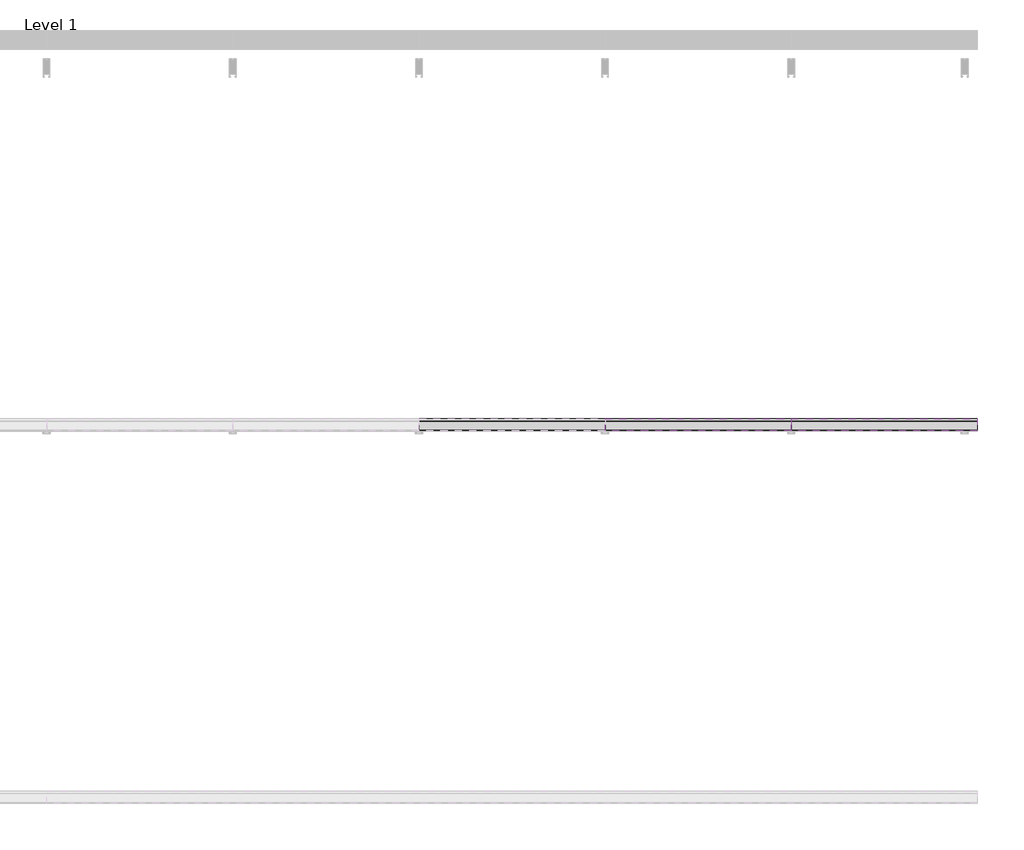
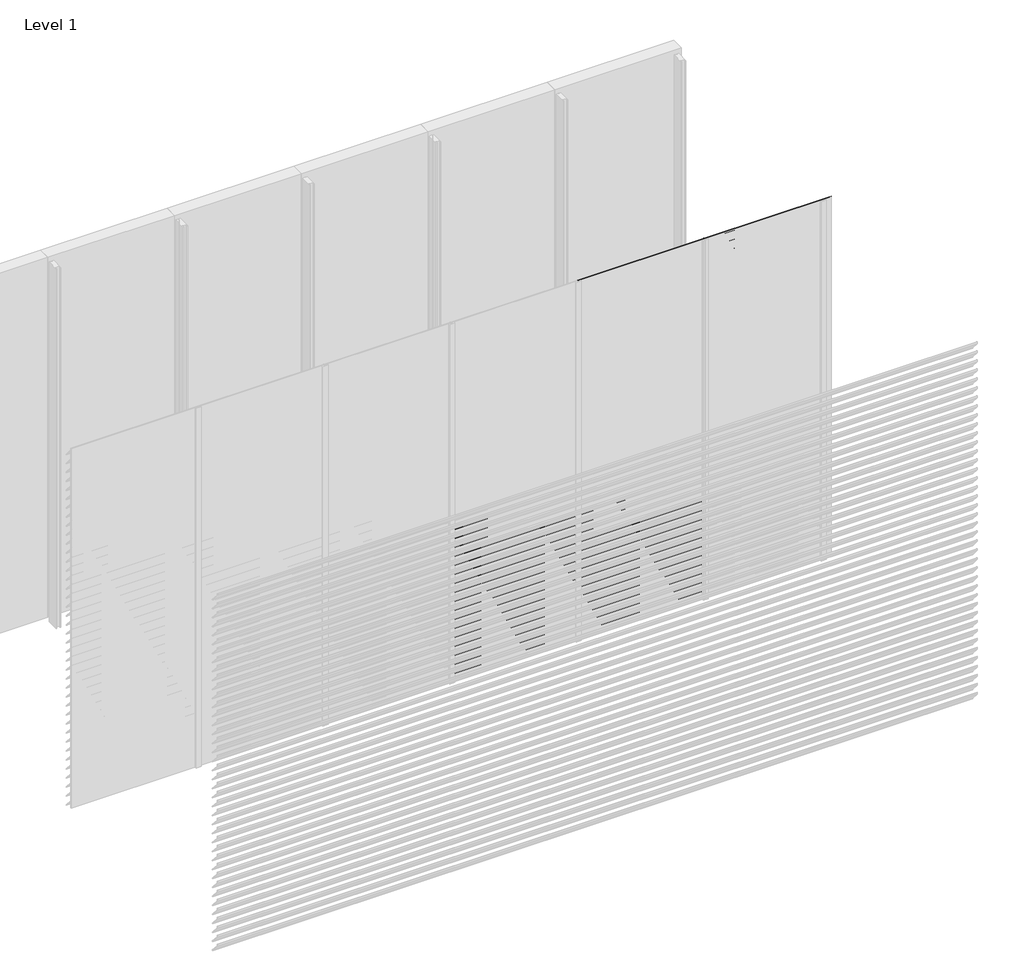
# One storey, part 22 of 35: 86 proxies.
"""IFC4 building model written with IfcOpenShell, lengths in millimetres."""

from ifc_helpers import new_model, si_unit, frame, origin, place, context, project, spatial, polyline, outline, extrude, element, save

model = new_model("IFC4")

# Units and contexts
model_context = context("Model", 3, world=origin())
ifc_project = project(units=[si_unit("LENGTHUNIT", "METRE", prefix="MILLI")], contexts=[model_context])

# Site, building, storey
site = spatial("IfcSite", under=ifc_project)
building = spatial("IfcBuilding", under=site)
storey = spatial("IfcBuildingStorey", under=building, Name="Level 1", Elevation=0.0)

# Proxies
placement = place(None, origin())
element("IfcBuildingElementProxy", 1, Name="Wall Sweeps", at=placement, inside=storey, context=model_context, shape_type="SweptSolid", body=[
    extrude(outline(polyline([(-23996.5, 1275.0), (-23996.5, 1260.5463701), (-23934.5, 1188.9330051), (-23934.5, 1185.4), (-23936.0, 1185.4), (-23936.0, 1188.3738975), (-23998.0, 1259.9872626), (-23998.0, 1275.0), (-23996.5, 1275.0)])), frame((3000.0, 0.0, 0.0), z_axis=(1.0, 0.0, 0.0), x_axis=(0.0, 1.0, 0.0)), (0.0, 0.0, 1.0), 1000.0),
])
element("IfcBuildingElementProxy", 2, Name="Wall Sweeps", at=placement, inside=storey, context=model_context, shape_type="SweptSolid", body=[
    extrude(outline(polyline([(-23996.5, 1200.0), (-23996.5, 1185.5463701), (-23934.5, 1113.9330051), (-23934.5, 1110.4), (-23936.0, 1110.4), (-23936.0, 1113.3738975), (-23998.0, 1184.9872626), (-23998.0, 1200.0), (-23996.5, 1200.0)])), frame((3000.0, 0.0, 0.0), z_axis=(1.0, 0.0, 0.0), x_axis=(0.0, 1.0, 0.0)), (0.0, 0.0, 1.0), 1000.0),
])
element("IfcBuildingElementProxy", 3, Name="Wall Sweeps", at=placement, inside=storey, context=model_context, shape_type="SweptSolid", body=[
    extrude(outline(polyline([(-23996.5, 1125.0), (-23996.5, 1110.5463701), (-23934.5, 1038.9330051), (-23934.5, 1035.4), (-23936.0, 1035.4), (-23936.0, 1038.3738975), (-23998.0, 1109.9872626), (-23998.0, 1125.0), (-23996.5, 1125.0)])), frame((3000.0, 0.0, 0.0), z_axis=(1.0, 0.0, 0.0), x_axis=(0.0, 1.0, 0.0)), (0.0, 0.0, 1.0), 1000.0),
])
element("IfcBuildingElementProxy", 4, Name="Wall Sweeps", at=placement, inside=storey, context=model_context, shape_type="SweptSolid", body=[
    extrude(outline(polyline([(-23996.5, 1050.0), (-23996.5, 1035.5463701), (-23934.5, 963.9330051), (-23934.5, 960.4), (-23936.0, 960.4), (-23936.0, 963.3738975), (-23998.0, 1034.9872626), (-23998.0, 1050.0), (-23996.5, 1050.0)])), frame((3000.0, 0.0, 0.0), z_axis=(1.0, 0.0, 0.0), x_axis=(0.0, 1.0, 0.0)), (0.0, 0.0, 1.0), 1000.0),
])
element("IfcBuildingElementProxy", 5, Name="Wall Sweeps", at=placement, inside=storey, context=model_context, shape_type="SweptSolid", body=[
    extrude(outline(polyline([(-23996.5, 975.0), (-23996.5, 960.5463701), (-23934.5, 888.9330051), (-23934.5, 885.4), (-23936.0, 885.4), (-23936.0, 888.3738975), (-23998.0, 959.9872626), (-23998.0, 975.0), (-23996.5, 975.0)])), frame((3000.0, 0.0, 0.0), z_axis=(1.0, 0.0, 0.0), x_axis=(0.0, 1.0, 0.0)), (0.0, 0.0, 1.0), 1000.0),
])
element("IfcBuildingElementProxy", 6, Name="Wall Sweeps", at=placement, inside=storey, context=model_context, shape_type="SweptSolid", body=[
    extrude(outline(polyline([(-23996.5, 900.0), (-23996.5, 885.5463701), (-23934.5, 813.9330051), (-23934.5, 810.4), (-23936.0, 810.4), (-23936.0, 813.3738975), (-23998.0, 884.9872626), (-23998.0, 900.0), (-23996.5, 900.0)])), frame((3000.0, 0.0, 0.0), z_axis=(1.0, 0.0, 0.0), x_axis=(0.0, 1.0, 0.0)), (0.0, 0.0, 1.0), 1000.0),
])
element("IfcBuildingElementProxy", 7, Name="Wall Sweeps", at=placement, inside=storey, context=model_context, shape_type="SweptSolid", body=[
    extrude(outline(polyline([(-23996.5, 825.0), (-23996.5, 810.5463701), (-23934.5, 738.9330051), (-23934.5, 735.4), (-23936.0, 735.4), (-23936.0, 738.3738975), (-23998.0, 809.9872626), (-23998.0, 825.0), (-23996.5, 825.0)])), frame((3000.0, 0.0, 0.0), z_axis=(1.0, 0.0, 0.0), x_axis=(0.0, 1.0, 0.0)), (0.0, 0.0, 1.0), 1000.0),
])
element("IfcBuildingElementProxy", 8, Name="Wall Sweeps", at=placement, inside=storey, context=model_context, shape_type="SweptSolid", body=[
    extrude(outline(polyline([(-23996.5, 750.0), (-23996.5, 735.5463701), (-23934.5, 663.9330051), (-23934.5, 660.4), (-23936.0, 660.4), (-23936.0, 663.3738975), (-23998.0, 734.9872626), (-23998.0, 750.0), (-23996.5, 750.0)])), frame((3000.0, 0.0, 0.0), z_axis=(1.0, 0.0, 0.0), x_axis=(0.0, 1.0, 0.0)), (0.0, 0.0, 1.0), 1000.0),
])
element("IfcBuildingElementProxy", 9, Name="Wall Sweeps", at=placement, inside=storey, context=model_context, shape_type="SweptSolid", body=[
    extrude(outline(polyline([(-23996.5, 675.0), (-23996.5, 660.5463701), (-23934.5, 588.9330051), (-23934.5, 585.4), (-23936.0, 585.4), (-23936.0, 588.3738975), (-23998.0, 659.9872626), (-23998.0, 675.0), (-23996.5, 675.0)])), frame((3000.0, 0.0, 0.0), z_axis=(1.0, 0.0, 0.0), x_axis=(0.0, 1.0, 0.0)), (0.0, 0.0, 1.0), 1000.0),
])
element("IfcBuildingElementProxy", 10, Name="Wall Sweeps", at=placement, inside=storey, context=model_context, shape_type="SweptSolid", body=[
    extrude(outline(polyline([(-23996.5, 600.0), (-23996.5, 585.5463701), (-23934.5, 513.9330051), (-23934.5, 510.4), (-23936.0, 510.4), (-23936.0, 513.3738975), (-23998.0, 584.9872626), (-23998.0, 600.0), (-23996.5, 600.0)])), frame((3000.0, 0.0, 0.0), z_axis=(1.0, 0.0, 0.0), x_axis=(0.0, 1.0, 0.0)), (0.0, 0.0, 1.0), 1000.0),
])
element("IfcBuildingElementProxy", 11, Name="Wall Sweeps", at=placement, inside=storey, context=model_context, shape_type="SweptSolid", body=[
    extrude(outline(polyline([(-23996.5, 525.0), (-23996.5, 510.5463701), (-23934.5, 438.9330051), (-23934.5, 435.4), (-23936.0, 435.4), (-23936.0, 438.3738975), (-23998.0, 509.9872626), (-23998.0, 525.0), (-23996.5, 525.0)])), frame((3000.0, 0.0, 0.0), z_axis=(1.0, 0.0, 0.0), x_axis=(0.0, 1.0, 0.0)), (0.0, 0.0, 1.0), 1000.0),
])
element("IfcBuildingElementProxy", 12, Name="Wall Sweeps", at=placement, inside=storey, context=model_context, shape_type="SweptSolid", body=[
    extrude(outline(polyline([(-23996.5, 450.0), (-23996.5, 435.5463701), (-23934.5, 363.9330051), (-23934.5, 360.4), (-23936.0, 360.4), (-23936.0, 363.3738975), (-23998.0, 434.9872626), (-23998.0, 450.0), (-23996.5, 450.0)])), frame((3000.0, 0.0, 0.0), z_axis=(1.0, 0.0, 0.0), x_axis=(0.0, 1.0, 0.0)), (0.0, 0.0, 1.0), 1000.0),
])
element("IfcBuildingElementProxy", 13, Name="Wall Sweeps", at=placement, inside=storey, context=model_context, shape_type="SweptSolid", body=[
    extrude(outline(polyline([(-23996.5, 375.0), (-23996.5, 360.5463701), (-23934.5, 288.9330051), (-23934.5, 285.4), (-23936.0, 285.4), (-23936.0, 288.3738975), (-23998.0, 359.9872626), (-23998.0, 375.0), (-23996.5, 375.0)])), frame((3000.0, 0.0, 0.0), z_axis=(1.0, 0.0, 0.0), x_axis=(0.0, 1.0, 0.0)), (0.0, 0.0, 1.0), 1000.0),
])
element("IfcBuildingElementProxy", 14, Name="Wall Sweeps", at=placement, inside=storey, context=model_context, shape_type="SweptSolid", body=[
    extrude(outline(polyline([(-23996.5, 300.0), (-23996.5, 285.5463701), (-23934.5, 213.9330051), (-23934.5, 210.4), (-23936.0, 210.4), (-23936.0, 213.3738975), (-23998.0, 284.9872626), (-23998.0, 300.0), (-23996.5, 300.0)])), frame((3000.0, 0.0, 0.0), z_axis=(1.0, 0.0, 0.0), x_axis=(0.0, 1.0, 0.0)), (0.0, 0.0, 1.0), 1000.0),
])
element("IfcBuildingElementProxy", 15, Name="Wall Sweeps", at=placement, inside=storey, context=model_context, shape_type="SweptSolid", body=[
    extrude(outline(polyline([(-23996.5, 225.0), (-23996.5, 210.5463701), (-23934.5, 138.9330051), (-23934.5, 135.4), (-23936.0, 135.4), (-23936.0, 138.3738975), (-23998.0, 209.9872626), (-23998.0, 225.0), (-23996.5, 225.0)])), frame((3000.0, 0.0, 0.0), z_axis=(1.0, 0.0, 0.0), x_axis=(0.0, 1.0, 0.0)), (0.0, 0.0, 1.0), 1000.0),
])
element("IfcBuildingElementProxy", 16, Name="Wall Sweeps", at=placement, inside=storey, context=model_context, shape_type="SweptSolid", body=[
    extrude(outline(polyline([(-23996.5, 150.0), (-23996.5, 135.5463701), (-23934.5, 63.9330051), (-23934.5, 60.4), (-23936.0, 60.4), (-23936.0, 63.3738975), (-23998.0, 134.9872626), (-23998.0, 150.0), (-23996.5, 150.0)])), frame((3000.0, 0.0, 0.0), z_axis=(1.0, 0.0, 0.0), x_axis=(0.0, 1.0, 0.0)), (0.0, 0.0, 1.0), 1000.0),
])
element("IfcBuildingElementProxy", 17, Name="Wall Sweeps", at=placement, inside=storey, context=model_context, shape_type="SweptSolid", body=[
    extrude(outline(polyline([(-23996.5, 75.0), (-23996.5, 60.5463701), (-23934.5, -11.0669949), (-23934.5, -14.6), (-23936.0, -14.6), (-23936.0, -11.6261025), (-23998.0, 59.9872626), (-23998.0, 75.0), (-23996.5, 75.0)])), frame((3000.0, 0.0, 0.0), z_axis=(1.0, 0.0, 0.0), x_axis=(0.0, 1.0, 0.0)), (0.0, 0.0, 1.0), 1000.0),
])
element("IfcBuildingElementProxy", 18, Name="Wall Sweeps", at=placement, inside=storey, context=model_context, shape_type="SweptSolid", body=[
    extrude(outline(polyline([(-23996.5, 3000.0), (-23996.5, 2985.5463701), (-23934.5, 2913.9330051), (-23934.5, 2910.4), (-23936.0, 2910.4), (-23936.0, 2913.3738975), (-23998.0, 2984.9872626), (-23998.0, 3000.0), (-23996.5, 3000.0)])), frame((4000.0, 0.0, 0.0), z_axis=(1.0, 0.0, 0.0), x_axis=(0.0, 1.0, 0.0)), (0.0, 0.0, 1.0), 1000.0),
])
element("IfcBuildingElementProxy", 19, Name="Wall Sweeps", at=placement, inside=storey, context=model_context, shape_type="SweptSolid", body=[
    extrude(outline(polyline([(-23996.5, 2925.0), (-23996.5, 2910.5463701), (-23934.5, 2838.9330051), (-23934.5, 2835.4), (-23936.0, 2835.4), (-23936.0, 2838.3738975), (-23998.0, 2909.9872626), (-23998.0, 2925.0), (-23996.5, 2925.0)])), frame((4000.0, 0.0, 0.0), z_axis=(1.0, 0.0, 0.0), x_axis=(0.0, 1.0, 0.0)), (0.0, 0.0, 1.0), 1000.0),
])
element("IfcBuildingElementProxy", 20, Name="Wall Sweeps", at=placement, inside=storey, context=model_context, shape_type="SweptSolid", body=[
    extrude(outline(polyline([(-23996.5, 2850.0), (-23996.5, 2835.5463701), (-23934.5, 2763.9330051), (-23934.5, 2760.4), (-23936.0, 2760.4), (-23936.0, 2763.3738975), (-23998.0, 2834.9872626), (-23998.0, 2850.0), (-23996.5, 2850.0)])), frame((4000.0, 0.0, 0.0), z_axis=(1.0, 0.0, 0.0), x_axis=(0.0, 1.0, 0.0)), (0.0, 0.0, 1.0), 1000.0),
])
element("IfcBuildingElementProxy", 21, Name="Wall Sweeps", at=placement, inside=storey, context=model_context, shape_type="SweptSolid", body=[
    extrude(outline(polyline([(-23996.5, 2775.0), (-23996.5, 2760.5463701), (-23934.5, 2688.9330051), (-23934.5, 2685.4), (-23936.0, 2685.4), (-23936.0, 2688.3738975), (-23998.0, 2759.9872626), (-23998.0, 2775.0), (-23996.5, 2775.0)])), frame((4000.0, 0.0, 0.0), z_axis=(1.0, 0.0, 0.0), x_axis=(0.0, 1.0, 0.0)), (0.0, 0.0, 1.0), 1000.0),
])
element("IfcBuildingElementProxy", 22, Name="Wall Sweeps", at=placement, inside=storey, context=model_context, shape_type="SweptSolid", body=[
    extrude(outline(polyline([(-23996.5, 2700.0), (-23996.5, 2685.5463701), (-23934.5, 2613.9330051), (-23934.5, 2610.4), (-23936.0, 2610.4), (-23936.0, 2613.3738975), (-23998.0, 2684.9872626), (-23998.0, 2700.0), (-23996.5, 2700.0)])), frame((4000.0, 0.0, 0.0), z_axis=(1.0, 0.0, 0.0), x_axis=(0.0, 1.0, 0.0)), (0.0, 0.0, 1.0), 1000.0),
])
element("IfcBuildingElementProxy", 23, Name="Wall Sweeps", at=placement, inside=storey, context=model_context, shape_type="SweptSolid", body=[
    extrude(outline(polyline([(-23996.5, 2625.0), (-23996.5, 2610.5463701), (-23934.5, 2538.9330051), (-23934.5, 2535.4), (-23936.0, 2535.4), (-23936.0, 2538.3738975), (-23998.0, 2609.9872626), (-23998.0, 2625.0), (-23996.5, 2625.0)])), frame((4000.0, 0.0, 0.0), z_axis=(1.0, 0.0, 0.0), x_axis=(0.0, 1.0, 0.0)), (0.0, 0.0, 1.0), 1000.0),
])
element("IfcBuildingElementProxy", 24, Name="Wall Sweeps", at=placement, inside=storey, context=model_context, shape_type="SweptSolid", body=[
    extrude(outline(polyline([(-23996.5, 2550.0), (-23996.5, 2535.5463701), (-23934.5, 2463.9330051), (-23934.5, 2460.4), (-23936.0, 2460.4), (-23936.0, 2463.3738975), (-23998.0, 2534.9872626), (-23998.0, 2550.0), (-23996.5, 2550.0)])), frame((4000.0, 0.0, 0.0), z_axis=(1.0, 0.0, 0.0), x_axis=(0.0, 1.0, 0.0)), (0.0, 0.0, 1.0), 1000.0),
])
element("IfcBuildingElementProxy", 25, Name="Wall Sweeps", at=placement, inside=storey, context=model_context, shape_type="SweptSolid", body=[
    extrude(outline(polyline([(-23996.5, 2475.0), (-23996.5, 2460.5463701), (-23934.5, 2388.9330051), (-23934.5, 2385.4), (-23936.0, 2385.4), (-23936.0, 2388.3738975), (-23998.0, 2459.9872626), (-23998.0, 2475.0), (-23996.5, 2475.0)])), frame((4000.0, 0.0, 0.0), z_axis=(1.0, 0.0, 0.0), x_axis=(0.0, 1.0, 0.0)), (0.0, 0.0, 1.0), 1000.0),
])
element("IfcBuildingElementProxy", 26, Name="Wall Sweeps", at=placement, inside=storey, context=model_context, shape_type="SweptSolid", body=[
    extrude(outline(polyline([(-23996.5, 2400.0), (-23996.5, 2385.5463701), (-23934.5, 2313.9330051), (-23934.5, 2310.4), (-23936.0, 2310.4), (-23936.0, 2313.3738975), (-23998.0, 2384.9872626), (-23998.0, 2400.0), (-23996.5, 2400.0)])), frame((4000.0, 0.0, 0.0), z_axis=(1.0, 0.0, 0.0), x_axis=(0.0, 1.0, 0.0)), (0.0, 0.0, 1.0), 1000.0),
])
element("IfcBuildingElementProxy", 27, Name="Wall Sweeps", at=placement, inside=storey, context=model_context, shape_type="SweptSolid", body=[
    extrude(outline(polyline([(-23996.5, 2325.0), (-23996.5, 2310.5463701), (-23934.5, 2238.9330051), (-23934.5, 2235.4), (-23936.0, 2235.4), (-23936.0, 2238.3738975), (-23998.0, 2309.9872626), (-23998.0, 2325.0), (-23996.5, 2325.0)])), frame((4000.0, 0.0, 0.0), z_axis=(1.0, 0.0, 0.0), x_axis=(0.0, 1.0, 0.0)), (0.0, 0.0, 1.0), 1000.0),
])
element("IfcBuildingElementProxy", 28, Name="Wall Sweeps", at=placement, inside=storey, context=model_context, shape_type="SweptSolid", body=[
    extrude(outline(polyline([(-23996.5, 2250.0), (-23996.5, 2235.5463701), (-23934.5, 2163.9330051), (-23934.5, 2160.4), (-23936.0, 2160.4), (-23936.0, 2163.3738975), (-23998.0, 2234.9872626), (-23998.0, 2250.0), (-23996.5, 2250.0)])), frame((4000.0, 0.0, 0.0), z_axis=(1.0, 0.0, 0.0), x_axis=(0.0, 1.0, 0.0)), (0.0, 0.0, 1.0), 1000.0),
])
element("IfcBuildingElementProxy", 29, Name="Wall Sweeps", at=placement, inside=storey, context=model_context, shape_type="SweptSolid", body=[
    extrude(outline(polyline([(-23996.5, 2175.0), (-23996.5, 2160.5463701), (-23934.5, 2088.9330051), (-23934.5, 2085.4), (-23936.0, 2085.4), (-23936.0, 2088.3738975), (-23998.0, 2159.9872626), (-23998.0, 2175.0), (-23996.5, 2175.0)])), frame((4000.0, 0.0, 0.0), z_axis=(1.0, 0.0, 0.0), x_axis=(0.0, 1.0, 0.0)), (0.0, 0.0, 1.0), 1000.0),
])
element("IfcBuildingElementProxy", 30, Name="Wall Sweeps", at=placement, inside=storey, context=model_context, shape_type="SweptSolid", body=[
    extrude(outline(polyline([(-23996.5, 2100.0), (-23996.5, 2085.5463701), (-23934.5, 2013.9330051), (-23934.5, 2010.4), (-23936.0, 2010.4), (-23936.0, 2013.3738975), (-23998.0, 2084.9872626), (-23998.0, 2100.0), (-23996.5, 2100.0)])), frame((4000.0, 0.0, 0.0), z_axis=(1.0, 0.0, 0.0), x_axis=(0.0, 1.0, 0.0)), (0.0, 0.0, 1.0), 1000.0),
])
element("IfcBuildingElementProxy", 31, Name="Wall Sweeps", at=placement, inside=storey, context=model_context, shape_type="SweptSolid", body=[
    extrude(outline(polyline([(-23996.5, 2025.0), (-23996.5, 2010.5463701), (-23934.5, 1938.9330051), (-23934.5, 1935.4), (-23936.0, 1935.4), (-23936.0, 1938.3738975), (-23998.0, 2009.9872626), (-23998.0, 2025.0), (-23996.5, 2025.0)])), frame((4000.0, 0.0, 0.0), z_axis=(1.0, 0.0, 0.0), x_axis=(0.0, 1.0, 0.0)), (0.0, 0.0, 1.0), 1000.0),
])
element("IfcBuildingElementProxy", 32, Name="Wall Sweeps", at=placement, inside=storey, context=model_context, shape_type="SweptSolid", body=[
    extrude(outline(polyline([(-23996.5, 1950.0), (-23996.5, 1935.5463701), (-23934.5, 1863.9330051), (-23934.5, 1860.4), (-23936.0, 1860.4), (-23936.0, 1863.3738975), (-23998.0, 1934.9872626), (-23998.0, 1950.0), (-23996.5, 1950.0)])), frame((4000.0, 0.0, 0.0), z_axis=(1.0, 0.0, 0.0), x_axis=(0.0, 1.0, 0.0)), (0.0, 0.0, 1.0), 1000.0),
])
element("IfcBuildingElementProxy", 33, Name="Wall Sweeps", at=placement, inside=storey, context=model_context, shape_type="SweptSolid", body=[
    extrude(outline(polyline([(-23996.5, 1875.0), (-23996.5, 1860.5463701), (-23934.5, 1788.9330051), (-23934.5, 1785.4), (-23936.0, 1785.4), (-23936.0, 1788.3738975), (-23998.0, 1859.9872626), (-23998.0, 1875.0), (-23996.5, 1875.0)])), frame((4000.0, 0.0, 0.0), z_axis=(1.0, 0.0, 0.0), x_axis=(0.0, 1.0, 0.0)), (0.0, 0.0, 1.0), 1000.0),
])
element("IfcBuildingElementProxy", 34, Name="Wall Sweeps", at=placement, inside=storey, context=model_context, shape_type="SweptSolid", body=[
    extrude(outline(polyline([(-23996.5, 1800.0), (-23996.5, 1785.5463701), (-23934.5, 1713.9330051), (-23934.5, 1710.4), (-23936.0, 1710.4), (-23936.0, 1713.3738975), (-23998.0, 1784.9872626), (-23998.0, 1800.0), (-23996.5, 1800.0)])), frame((4000.0, 0.0, 0.0), z_axis=(1.0, 0.0, 0.0), x_axis=(0.0, 1.0, 0.0)), (0.0, 0.0, 1.0), 1000.0),
])
element("IfcBuildingElementProxy", 35, Name="Wall Sweeps", at=placement, inside=storey, context=model_context, shape_type="SweptSolid", body=[
    extrude(outline(polyline([(-23996.5, 1725.0), (-23996.5, 1710.5463701), (-23934.5, 1638.9330051), (-23934.5, 1635.4), (-23936.0, 1635.4), (-23936.0, 1638.3738975), (-23998.0, 1709.9872626), (-23998.0, 1725.0), (-23996.5, 1725.0)])), frame((4000.0, 0.0, 0.0), z_axis=(1.0, 0.0, 0.0), x_axis=(0.0, 1.0, 0.0)), (0.0, 0.0, 1.0), 1000.0),
])
element("IfcBuildingElementProxy", 36, Name="Wall Sweeps", at=placement, inside=storey, context=model_context, shape_type="SweptSolid", body=[
    extrude(outline(polyline([(-23996.5, 1650.0), (-23996.5, 1635.5463701), (-23934.5, 1563.9330051), (-23934.5, 1560.4), (-23936.0, 1560.4), (-23936.0, 1563.3738975), (-23998.0, 1634.9872626), (-23998.0, 1650.0), (-23996.5, 1650.0)])), frame((4000.0, 0.0, 0.0), z_axis=(1.0, 0.0, 0.0), x_axis=(0.0, 1.0, 0.0)), (0.0, 0.0, 1.0), 1000.0),
])
element("IfcBuildingElementProxy", 37, Name="Wall Sweeps", at=placement, inside=storey, context=model_context, shape_type="SweptSolid", body=[
    extrude(outline(polyline([(-23996.5, 1575.0), (-23996.5, 1560.5463701), (-23934.5, 1488.9330051), (-23934.5, 1485.4), (-23936.0, 1485.4), (-23936.0, 1488.3738975), (-23998.0, 1559.9872626), (-23998.0, 1575.0), (-23996.5, 1575.0)])), frame((4000.0, 0.0, 0.0), z_axis=(1.0, 0.0, 0.0), x_axis=(0.0, 1.0, 0.0)), (0.0, 0.0, 1.0), 1000.0),
])
element("IfcBuildingElementProxy", 38, Name="Wall Sweeps", at=placement, inside=storey, context=model_context, shape_type="SweptSolid", body=[
    extrude(outline(polyline([(-23996.5, 1500.0), (-23996.5, 1485.5463701), (-23934.5, 1413.9330051), (-23934.5, 1410.4), (-23936.0, 1410.4), (-23936.0, 1413.3738975), (-23998.0, 1484.9872626), (-23998.0, 1500.0), (-23996.5, 1500.0)])), frame((4000.0, 0.0, 0.0), z_axis=(1.0, 0.0, 0.0), x_axis=(0.0, 1.0, 0.0)), (0.0, 0.0, 1.0), 1000.0),
])
element("IfcBuildingElementProxy", 39, Name="Wall Sweeps", at=placement, inside=storey, context=model_context, shape_type="SweptSolid", body=[
    extrude(outline(polyline([(-23996.5, 1425.0), (-23996.5, 1410.5463701), (-23934.5, 1338.9330051), (-23934.5, 1335.4), (-23936.0, 1335.4), (-23936.0, 1338.3738975), (-23998.0, 1409.9872626), (-23998.0, 1425.0), (-23996.5, 1425.0)])), frame((4000.0, 0.0, 0.0), z_axis=(1.0, 0.0, 0.0), x_axis=(0.0, 1.0, 0.0)), (0.0, 0.0, 1.0), 1000.0),
])
element("IfcBuildingElementProxy", 40, Name="Wall Sweeps", at=placement, inside=storey, context=model_context, shape_type="SweptSolid", body=[
    extrude(outline(polyline([(-23996.5, 1350.0), (-23996.5, 1335.5463701), (-23934.5, 1263.9330051), (-23934.5, 1260.4), (-23936.0, 1260.4), (-23936.0, 1263.3738975), (-23998.0, 1334.9872626), (-23998.0, 1350.0), (-23996.5, 1350.0)])), frame((4000.0, 0.0, 0.0), z_axis=(1.0, 0.0, 0.0), x_axis=(0.0, 1.0, 0.0)), (0.0, 0.0, 1.0), 1000.0),
])
element("IfcBuildingElementProxy", 41, Name="Wall Sweeps", at=placement, inside=storey, context=model_context, shape_type="SweptSolid", body=[
    extrude(outline(polyline([(-23996.5, 1275.0), (-23996.5, 1260.5463701), (-23934.5, 1188.9330051), (-23934.5, 1185.4), (-23936.0, 1185.4), (-23936.0, 1188.3738975), (-23998.0, 1259.9872626), (-23998.0, 1275.0), (-23996.5, 1275.0)])), frame((4000.0, 0.0, 0.0), z_axis=(1.0, 0.0, 0.0), x_axis=(0.0, 1.0, 0.0)), (0.0, 0.0, 1.0), 1000.0),
])
element("IfcBuildingElementProxy", 42, Name="Wall Sweeps", at=placement, inside=storey, context=model_context, shape_type="SweptSolid", body=[
    extrude(outline(polyline([(-23996.5, 1200.0), (-23996.5, 1185.5463701), (-23934.5, 1113.9330051), (-23934.5, 1110.4), (-23936.0, 1110.4), (-23936.0, 1113.3738975), (-23998.0, 1184.9872626), (-23998.0, 1200.0), (-23996.5, 1200.0)])), frame((4000.0, 0.0, 0.0), z_axis=(1.0, 0.0, 0.0), x_axis=(0.0, 1.0, 0.0)), (0.0, 0.0, 1.0), 1000.0),
])
element("IfcBuildingElementProxy", 43, Name="Wall Sweeps", at=placement, inside=storey, context=model_context, shape_type="SweptSolid", body=[
    extrude(outline(polyline([(-23996.5, 1125.0), (-23996.5, 1110.5463701), (-23934.5, 1038.9330051), (-23934.5, 1035.4), (-23936.0, 1035.4), (-23936.0, 1038.3738975), (-23998.0, 1109.9872626), (-23998.0, 1125.0), (-23996.5, 1125.0)])), frame((4000.0, 0.0, 0.0), z_axis=(1.0, 0.0, 0.0), x_axis=(0.0, 1.0, 0.0)), (0.0, 0.0, 1.0), 1000.0),
])
element("IfcBuildingElementProxy", 44, Name="Wall Sweeps", at=placement, inside=storey, context=model_context, shape_type="SweptSolid", body=[
    extrude(outline(polyline([(-23996.5, 1050.0), (-23996.5, 1035.5463701), (-23934.5, 963.9330051), (-23934.5, 960.4), (-23936.0, 960.4), (-23936.0, 963.3738975), (-23998.0, 1034.9872626), (-23998.0, 1050.0), (-23996.5, 1050.0)])), frame((4000.0, 0.0, 0.0), z_axis=(1.0, 0.0, 0.0), x_axis=(0.0, 1.0, 0.0)), (0.0, 0.0, 1.0), 1000.0),
])
element("IfcBuildingElementProxy", 45, Name="Wall Sweeps", at=placement, inside=storey, context=model_context, shape_type="SweptSolid", body=[
    extrude(outline(polyline([(-23996.5, 975.0), (-23996.5, 960.5463701), (-23934.5, 888.9330051), (-23934.5, 885.4), (-23936.0, 885.4), (-23936.0, 888.3738975), (-23998.0, 959.9872626), (-23998.0, 975.0), (-23996.5, 975.0)])), frame((4000.0, 0.0, 0.0), z_axis=(1.0, 0.0, 0.0), x_axis=(0.0, 1.0, 0.0)), (0.0, 0.0, 1.0), 1000.0),
])
element("IfcBuildingElementProxy", 46, Name="Wall Sweeps", at=placement, inside=storey, context=model_context, shape_type="SweptSolid", body=[
    extrude(outline(polyline([(-23996.5, 900.0), (-23996.5, 885.5463701), (-23934.5, 813.9330051), (-23934.5, 810.4), (-23936.0, 810.4), (-23936.0, 813.3738975), (-23998.0, 884.9872626), (-23998.0, 900.0), (-23996.5, 900.0)])), frame((4000.0, 0.0, 0.0), z_axis=(1.0, 0.0, 0.0), x_axis=(0.0, 1.0, 0.0)), (0.0, 0.0, 1.0), 1000.0),
])
element("IfcBuildingElementProxy", 47, Name="Wall Sweeps", at=placement, inside=storey, context=model_context, shape_type="SweptSolid", body=[
    extrude(outline(polyline([(-23996.5, 825.0), (-23996.5, 810.5463701), (-23934.5, 738.9330051), (-23934.5, 735.4), (-23936.0, 735.4), (-23936.0, 738.3738975), (-23998.0, 809.9872626), (-23998.0, 825.0), (-23996.5, 825.0)])), frame((4000.0, 0.0, 0.0), z_axis=(1.0, 0.0, 0.0), x_axis=(0.0, 1.0, 0.0)), (0.0, 0.0, 1.0), 1000.0),
])
element("IfcBuildingElementProxy", 48, Name="Wall Sweeps", at=placement, inside=storey, context=model_context, shape_type="SweptSolid", body=[
    extrude(outline(polyline([(-23996.5, 750.0), (-23996.5, 735.5463701), (-23934.5, 663.9330051), (-23934.5, 660.4), (-23936.0, 660.4), (-23936.0, 663.3738975), (-23998.0, 734.9872626), (-23998.0, 750.0), (-23996.5, 750.0)])), frame((4000.0, 0.0, 0.0), z_axis=(1.0, 0.0, 0.0), x_axis=(0.0, 1.0, 0.0)), (0.0, 0.0, 1.0), 1000.0),
])
element("IfcBuildingElementProxy", 49, Name="Wall Sweeps", at=placement, inside=storey, context=model_context, shape_type="SweptSolid", body=[
    extrude(outline(polyline([(-23996.5, 675.0), (-23996.5, 660.5463701), (-23934.5, 588.9330051), (-23934.5, 585.4), (-23936.0, 585.4), (-23936.0, 588.3738975), (-23998.0, 659.9872626), (-23998.0, 675.0), (-23996.5, 675.0)])), frame((4000.0, 0.0, 0.0), z_axis=(1.0, 0.0, 0.0), x_axis=(0.0, 1.0, 0.0)), (0.0, 0.0, 1.0), 1000.0),
])
element("IfcBuildingElementProxy", 50, Name="Wall Sweeps", at=placement, inside=storey, context=model_context, shape_type="SweptSolid", body=[
    extrude(outline(polyline([(-23996.5, 600.0), (-23996.5, 585.5463701), (-23934.5, 513.9330051), (-23934.5, 510.4), (-23936.0, 510.4), (-23936.0, 513.3738975), (-23998.0, 584.9872626), (-23998.0, 600.0), (-23996.5, 600.0)])), frame((4000.0, 0.0, 0.0), z_axis=(1.0, 0.0, 0.0), x_axis=(0.0, 1.0, 0.0)), (0.0, 0.0, 1.0), 1000.0),
])
element("IfcBuildingElementProxy", 51, Name="Wall Sweeps", at=placement, inside=storey, context=model_context, shape_type="SweptSolid", body=[
    extrude(outline(polyline([(-23996.5, 525.0), (-23996.5, 510.5463701), (-23934.5, 438.9330051), (-23934.5, 435.4), (-23936.0, 435.4), (-23936.0, 438.3738975), (-23998.0, 509.9872626), (-23998.0, 525.0), (-23996.5, 525.0)])), frame((4000.0, 0.0, 0.0), z_axis=(1.0, 0.0, 0.0), x_axis=(0.0, 1.0, 0.0)), (0.0, 0.0, 1.0), 1000.0),
])
element("IfcBuildingElementProxy", 52, Name="Wall Sweeps", at=placement, inside=storey, context=model_context, shape_type="SweptSolid", body=[
    extrude(outline(polyline([(-23996.5, 450.0), (-23996.5, 435.5463701), (-23934.5, 363.9330051), (-23934.5, 360.4), (-23936.0, 360.4), (-23936.0, 363.3738975), (-23998.0, 434.9872626), (-23998.0, 450.0), (-23996.5, 450.0)])), frame((4000.0, 0.0, 0.0), z_axis=(1.0, 0.0, 0.0), x_axis=(0.0, 1.0, 0.0)), (0.0, 0.0, 1.0), 1000.0),
])
element("IfcBuildingElementProxy", 53, Name="Wall Sweeps", at=placement, inside=storey, context=model_context, shape_type="SweptSolid", body=[
    extrude(outline(polyline([(-23996.5, 375.0), (-23996.5, 360.5463701), (-23934.5, 288.9330051), (-23934.5, 285.4), (-23936.0, 285.4), (-23936.0, 288.3738975), (-23998.0, 359.9872626), (-23998.0, 375.0), (-23996.5, 375.0)])), frame((4000.0, 0.0, 0.0), z_axis=(1.0, 0.0, 0.0), x_axis=(0.0, 1.0, 0.0)), (0.0, 0.0, 1.0), 1000.0),
])
element("IfcBuildingElementProxy", 54, Name="Wall Sweeps", at=placement, inside=storey, context=model_context, shape_type="SweptSolid", body=[
    extrude(outline(polyline([(-23996.5, 300.0), (-23996.5, 285.5463701), (-23934.5, 213.9330051), (-23934.5, 210.4), (-23936.0, 210.4), (-23936.0, 213.3738975), (-23998.0, 284.9872626), (-23998.0, 300.0), (-23996.5, 300.0)])), frame((4000.0, 0.0, 0.0), z_axis=(1.0, 0.0, 0.0), x_axis=(0.0, 1.0, 0.0)), (0.0, 0.0, 1.0), 1000.0),
])
element("IfcBuildingElementProxy", 55, Name="Wall Sweeps", at=placement, inside=storey, context=model_context, shape_type="SweptSolid", body=[
    extrude(outline(polyline([(-23996.5, 225.0), (-23996.5, 210.5463701), (-23934.5, 138.9330051), (-23934.5, 135.4), (-23936.0, 135.4), (-23936.0, 138.3738975), (-23998.0, 209.9872626), (-23998.0, 225.0), (-23996.5, 225.0)])), frame((4000.0, 0.0, 0.0), z_axis=(1.0, 0.0, 0.0), x_axis=(0.0, 1.0, 0.0)), (0.0, 0.0, 1.0), 1000.0),
])
element("IfcBuildingElementProxy", 56, Name="Wall Sweeps", at=placement, inside=storey, context=model_context, shape_type="SweptSolid", body=[
    extrude(outline(polyline([(-23996.5, 150.0), (-23996.5, 135.5463701), (-23934.5, 63.9330051), (-23934.5, 60.4), (-23936.0, 60.4), (-23936.0, 63.3738975), (-23998.0, 134.9872626), (-23998.0, 150.0), (-23996.5, 150.0)])), frame((4000.0, 0.0, 0.0), z_axis=(1.0, 0.0, 0.0), x_axis=(0.0, 1.0, 0.0)), (0.0, 0.0, 1.0), 1000.0),
])
element("IfcBuildingElementProxy", 57, Name="Wall Sweeps", at=placement, inside=storey, context=model_context, shape_type="SweptSolid", body=[
    extrude(outline(polyline([(-23996.5, 75.0), (-23996.5, 60.5463701), (-23934.5, -11.0669949), (-23934.5, -14.6), (-23936.0, -14.6), (-23936.0, -11.6261025), (-23998.0, 59.9872626), (-23998.0, 75.0), (-23996.5, 75.0)])), frame((4000.0, 0.0, 0.0), z_axis=(1.0, 0.0, 0.0), x_axis=(0.0, 1.0, 0.0)), (0.0, 0.0, 1.0), 1000.0),
])
element("IfcBuildingElementProxy", 58, Name="Wall Sweeps", at=placement, inside=storey, context=model_context, shape_type="SweptSolid", body=[
    extrude(outline(polyline([(-23996.5, 3000.0), (-23996.5, 2985.5463701), (-23934.5, 2913.9330051), (-23934.5, 2910.4), (-23936.0, 2910.4), (-23936.0, 2913.3738975), (-23998.0, 2984.9872626), (-23998.0, 3000.0), (-23996.5, 3000.0)])), frame((5000.0, 0.0, 0.0), z_axis=(1.0, 0.0, 0.0), x_axis=(0.0, 1.0, 0.0)), (0.0, 0.0, 1.0), 1000.0),
])
element("IfcBuildingElementProxy", 59, Name="Wall Sweeps", at=placement, inside=storey, context=model_context, shape_type="SweptSolid", body=[
    extrude(outline(polyline([(-23996.5, 2925.0), (-23996.5, 2910.5463701), (-23934.5, 2838.9330051), (-23934.5, 2835.4), (-23936.0, 2835.4), (-23936.0, 2838.3738975), (-23998.0, 2909.9872626), (-23998.0, 2925.0), (-23996.5, 2925.0)])), frame((5000.0, 0.0, 0.0), z_axis=(1.0, 0.0, 0.0), x_axis=(0.0, 1.0, 0.0)), (0.0, 0.0, 1.0), 1000.0),
])
element("IfcBuildingElementProxy", 60, Name="Wall Sweeps", at=placement, inside=storey, context=model_context, shape_type="SweptSolid", body=[
    extrude(outline(polyline([(-23996.5, 2850.0), (-23996.5, 2835.5463701), (-23934.5, 2763.9330051), (-23934.5, 2760.4), (-23936.0, 2760.4), (-23936.0, 2763.3738975), (-23998.0, 2834.9872626), (-23998.0, 2850.0), (-23996.5, 2850.0)])), frame((5000.0, 0.0, 0.0), z_axis=(1.0, 0.0, 0.0), x_axis=(0.0, 1.0, 0.0)), (0.0, 0.0, 1.0), 1000.0),
])
element("IfcBuildingElementProxy", 61, Name="Wall Sweeps", at=placement, inside=storey, context=model_context, shape_type="SweptSolid", body=[
    extrude(outline(polyline([(-23996.5, 2775.0), (-23996.5, 2760.5463701), (-23934.5, 2688.9330051), (-23934.5, 2685.4), (-23936.0, 2685.4), (-23936.0, 2688.3738975), (-23998.0, 2759.9872626), (-23998.0, 2775.0), (-23996.5, 2775.0)])), frame((5000.0, 0.0, 0.0), z_axis=(1.0, 0.0, 0.0), x_axis=(0.0, 1.0, 0.0)), (0.0, 0.0, 1.0), 1000.0),
])
element("IfcBuildingElementProxy", 62, Name="Wall Sweeps", at=placement, inside=storey, context=model_context, shape_type="SweptSolid", body=[
    extrude(outline(polyline([(-23996.5, 2700.0), (-23996.5, 2685.5463701), (-23934.5, 2613.9330051), (-23934.5, 2610.4), (-23936.0, 2610.4), (-23936.0, 2613.3738975), (-23998.0, 2684.9872626), (-23998.0, 2700.0), (-23996.5, 2700.0)])), frame((5000.0, 0.0, 0.0), z_axis=(1.0, 0.0, 0.0), x_axis=(0.0, 1.0, 0.0)), (0.0, 0.0, 1.0), 1000.0),
])
element("IfcBuildingElementProxy", 63, Name="Wall Sweeps", at=placement, inside=storey, context=model_context, shape_type="SweptSolid", body=[
    extrude(outline(polyline([(-23996.5, 2625.0), (-23996.5, 2610.5463701), (-23934.5, 2538.9330051), (-23934.5, 2535.4), (-23936.0, 2535.4), (-23936.0, 2538.3738975), (-23998.0, 2609.9872626), (-23998.0, 2625.0), (-23996.5, 2625.0)])), frame((5000.0, 0.0, 0.0), z_axis=(1.0, 0.0, 0.0), x_axis=(0.0, 1.0, 0.0)), (0.0, 0.0, 1.0), 1000.0),
])
element("IfcBuildingElementProxy", 64, Name="Wall Sweeps", at=placement, inside=storey, context=model_context, shape_type="SweptSolid", body=[
    extrude(outline(polyline([(-23996.5, 2550.0), (-23996.5, 2535.5463701), (-23934.5, 2463.9330051), (-23934.5, 2460.4), (-23936.0, 2460.4), (-23936.0, 2463.3738975), (-23998.0, 2534.9872626), (-23998.0, 2550.0), (-23996.5, 2550.0)])), frame((5000.0, 0.0, 0.0), z_axis=(1.0, 0.0, 0.0), x_axis=(0.0, 1.0, 0.0)), (0.0, 0.0, 1.0), 1000.0),
])
element("IfcBuildingElementProxy", 65, Name="Wall Sweeps", at=placement, inside=storey, context=model_context, shape_type="SweptSolid", body=[
    extrude(outline(polyline([(-23996.5, 2475.0), (-23996.5, 2460.5463701), (-23934.5, 2388.9330051), (-23934.5, 2385.4), (-23936.0, 2385.4), (-23936.0, 2388.3738975), (-23998.0, 2459.9872626), (-23998.0, 2475.0), (-23996.5, 2475.0)])), frame((5000.0, 0.0, 0.0), z_axis=(1.0, 0.0, 0.0), x_axis=(0.0, 1.0, 0.0)), (0.0, 0.0, 1.0), 1000.0),
])
element("IfcBuildingElementProxy", 66, Name="Wall Sweeps", at=placement, inside=storey, context=model_context, shape_type="SweptSolid", body=[
    extrude(outline(polyline([(-23996.5, 2400.0), (-23996.5, 2385.5463701), (-23934.5, 2313.9330051), (-23934.5, 2310.4), (-23936.0, 2310.4), (-23936.0, 2313.3738975), (-23998.0, 2384.9872626), (-23998.0, 2400.0), (-23996.5, 2400.0)])), frame((5000.0, 0.0, 0.0), z_axis=(1.0, 0.0, 0.0), x_axis=(0.0, 1.0, 0.0)), (0.0, 0.0, 1.0), 1000.0),
])
element("IfcBuildingElementProxy", 67, Name="Wall Sweeps", at=placement, inside=storey, context=model_context, shape_type="SweptSolid", body=[
    extrude(outline(polyline([(-23996.5, 2325.0), (-23996.5, 2310.5463701), (-23934.5, 2238.9330051), (-23934.5, 2235.4), (-23936.0, 2235.4), (-23936.0, 2238.3738975), (-23998.0, 2309.9872626), (-23998.0, 2325.0), (-23996.5, 2325.0)])), frame((5000.0, 0.0, 0.0), z_axis=(1.0, 0.0, 0.0), x_axis=(0.0, 1.0, 0.0)), (0.0, 0.0, 1.0), 1000.0),
])
element("IfcBuildingElementProxy", 68, Name="Wall Sweeps", at=placement, inside=storey, context=model_context, shape_type="SweptSolid", body=[
    extrude(outline(polyline([(-23996.5, 2250.0), (-23996.5, 2235.5463701), (-23934.5, 2163.9330051), (-23934.5, 2160.4), (-23936.0, 2160.4), (-23936.0, 2163.3738975), (-23998.0, 2234.9872626), (-23998.0, 2250.0), (-23996.5, 2250.0)])), frame((5000.0, 0.0, 0.0), z_axis=(1.0, 0.0, 0.0), x_axis=(0.0, 1.0, 0.0)), (0.0, 0.0, 1.0), 1000.0),
])
element("IfcBuildingElementProxy", 69, Name="Wall Sweeps", at=placement, inside=storey, context=model_context, shape_type="SweptSolid", body=[
    extrude(outline(polyline([(-23996.5, 2175.0), (-23996.5, 2160.5463701), (-23934.5, 2088.9330051), (-23934.5, 2085.4), (-23936.0, 2085.4), (-23936.0, 2088.3738975), (-23998.0, 2159.9872626), (-23998.0, 2175.0), (-23996.5, 2175.0)])), frame((5000.0, 0.0, 0.0), z_axis=(1.0, 0.0, 0.0), x_axis=(0.0, 1.0, 0.0)), (0.0, 0.0, 1.0), 1000.0),
])
element("IfcBuildingElementProxy", 70, Name="Wall Sweeps", at=placement, inside=storey, context=model_context, shape_type="SweptSolid", body=[
    extrude(outline(polyline([(-23996.5, 2100.0), (-23996.5, 2085.5463701), (-23934.5, 2013.9330051), (-23934.5, 2010.4), (-23936.0, 2010.4), (-23936.0, 2013.3738975), (-23998.0, 2084.9872626), (-23998.0, 2100.0), (-23996.5, 2100.0)])), frame((5000.0, 0.0, 0.0), z_axis=(1.0, 0.0, 0.0), x_axis=(0.0, 1.0, 0.0)), (0.0, 0.0, 1.0), 1000.0),
])
element("IfcBuildingElementProxy", 71, Name="Wall Sweeps", at=placement, inside=storey, context=model_context, shape_type="SweptSolid", body=[
    extrude(outline(polyline([(-23996.5, 2025.0), (-23996.5, 2010.5463701), (-23934.5, 1938.9330051), (-23934.5, 1935.4), (-23936.0, 1935.4), (-23936.0, 1938.3738975), (-23998.0, 2009.9872626), (-23998.0, 2025.0), (-23996.5, 2025.0)])), frame((5000.0, 0.0, 0.0), z_axis=(1.0, 0.0, 0.0), x_axis=(0.0, 1.0, 0.0)), (0.0, 0.0, 1.0), 1000.0),
])
element("IfcBuildingElementProxy", 72, Name="Wall Sweeps", at=placement, inside=storey, context=model_context, shape_type="SweptSolid", body=[
    extrude(outline(polyline([(-23996.5, 1950.0), (-23996.5, 1935.5463701), (-23934.5, 1863.9330051), (-23934.5, 1860.4), (-23936.0, 1860.4), (-23936.0, 1863.3738975), (-23998.0, 1934.9872626), (-23998.0, 1950.0), (-23996.5, 1950.0)])), frame((5000.0, 0.0, 0.0), z_axis=(1.0, 0.0, 0.0), x_axis=(0.0, 1.0, 0.0)), (0.0, 0.0, 1.0), 1000.0),
])
element("IfcBuildingElementProxy", 73, Name="Wall Sweeps", at=placement, inside=storey, context=model_context, shape_type="SweptSolid", body=[
    extrude(outline(polyline([(-23996.5, 1875.0), (-23996.5, 1860.5463701), (-23934.5, 1788.9330051), (-23934.5, 1785.4), (-23936.0, 1785.4), (-23936.0, 1788.3738975), (-23998.0, 1859.9872626), (-23998.0, 1875.0), (-23996.5, 1875.0)])), frame((5000.0, 0.0, 0.0), z_axis=(1.0, 0.0, 0.0), x_axis=(0.0, 1.0, 0.0)), (0.0, 0.0, 1.0), 1000.0),
])
element("IfcBuildingElementProxy", 74, Name="Wall Sweeps", at=placement, inside=storey, context=model_context, shape_type="SweptSolid", body=[
    extrude(outline(polyline([(-23996.5, 1800.0), (-23996.5, 1785.5463701), (-23934.5, 1713.9330051), (-23934.5, 1710.4), (-23936.0, 1710.4), (-23936.0, 1713.3738975), (-23998.0, 1784.9872626), (-23998.0, 1800.0), (-23996.5, 1800.0)])), frame((5000.0, 0.0, 0.0), z_axis=(1.0, 0.0, 0.0), x_axis=(0.0, 1.0, 0.0)), (0.0, 0.0, 1.0), 1000.0),
])
element("IfcBuildingElementProxy", 75, Name="Wall Sweeps", at=placement, inside=storey, context=model_context, shape_type="SweptSolid", body=[
    extrude(outline(polyline([(-23996.5, 1725.0), (-23996.5, 1710.5463701), (-23934.5, 1638.9330051), (-23934.5, 1635.4), (-23936.0, 1635.4), (-23936.0, 1638.3738975), (-23998.0, 1709.9872626), (-23998.0, 1725.0), (-23996.5, 1725.0)])), frame((5000.0, 0.0, 0.0), z_axis=(1.0, 0.0, 0.0), x_axis=(0.0, 1.0, 0.0)), (0.0, 0.0, 1.0), 1000.0),
])
element("IfcBuildingElementProxy", 76, Name="Wall Sweeps", at=placement, inside=storey, context=model_context, shape_type="SweptSolid", body=[
    extrude(outline(polyline([(-23996.5, 1650.0), (-23996.5, 1635.5463701), (-23934.5, 1563.9330051), (-23934.5, 1560.4), (-23936.0, 1560.4), (-23936.0, 1563.3738975), (-23998.0, 1634.9872626), (-23998.0, 1650.0), (-23996.5, 1650.0)])), frame((5000.0, 0.0, 0.0), z_axis=(1.0, 0.0, 0.0), x_axis=(0.0, 1.0, 0.0)), (0.0, 0.0, 1.0), 1000.0),
])
element("IfcBuildingElementProxy", 77, Name="Wall Sweeps", at=placement, inside=storey, context=model_context, shape_type="SweptSolid", body=[
    extrude(outline(polyline([(-23996.5, 1575.0), (-23996.5, 1560.5463701), (-23934.5, 1488.9330051), (-23934.5, 1485.4), (-23936.0, 1485.4), (-23936.0, 1488.3738975), (-23998.0, 1559.9872626), (-23998.0, 1575.0), (-23996.5, 1575.0)])), frame((5000.0, 0.0, 0.0), z_axis=(1.0, 0.0, 0.0), x_axis=(0.0, 1.0, 0.0)), (0.0, 0.0, 1.0), 1000.0),
])
element("IfcBuildingElementProxy", 78, Name="Wall Sweeps", at=placement, inside=storey, context=model_context, shape_type="SweptSolid", body=[
    extrude(outline(polyline([(-23996.5, 1500.0), (-23996.5, 1485.5463701), (-23934.5, 1413.9330051), (-23934.5, 1410.4), (-23936.0, 1410.4), (-23936.0, 1413.3738975), (-23998.0, 1484.9872626), (-23998.0, 1500.0), (-23996.5, 1500.0)])), frame((5000.0, 0.0, 0.0), z_axis=(1.0, 0.0, 0.0), x_axis=(0.0, 1.0, 0.0)), (0.0, 0.0, 1.0), 1000.0),
])
element("IfcBuildingElementProxy", 79, Name="Wall Sweeps", at=placement, inside=storey, context=model_context, shape_type="SweptSolid", body=[
    extrude(outline(polyline([(-23996.5, 1425.0), (-23996.5, 1410.5463701), (-23934.5, 1338.9330051), (-23934.5, 1335.4), (-23936.0, 1335.4), (-23936.0, 1338.3738975), (-23998.0, 1409.9872626), (-23998.0, 1425.0), (-23996.5, 1425.0)])), frame((5000.0, 0.0, 0.0), z_axis=(1.0, 0.0, 0.0), x_axis=(0.0, 1.0, 0.0)), (0.0, 0.0, 1.0), 1000.0),
])
element("IfcBuildingElementProxy", 80, Name="Wall Sweeps", at=placement, inside=storey, context=model_context, shape_type="SweptSolid", body=[
    extrude(outline(polyline([(-23996.5, 1350.0), (-23996.5, 1335.5463701), (-23934.5, 1263.9330051), (-23934.5, 1260.4), (-23936.0, 1260.4), (-23936.0, 1263.3738975), (-23998.0, 1334.9872626), (-23998.0, 1350.0), (-23996.5, 1350.0)])), frame((5000.0, 0.0, 0.0), z_axis=(1.0, 0.0, 0.0), x_axis=(0.0, 1.0, 0.0)), (0.0, 0.0, 1.0), 1000.0),
])
element("IfcBuildingElementProxy", 81, Name="Wall Sweeps", at=placement, inside=storey, context=model_context, shape_type="SweptSolid", body=[
    extrude(outline(polyline([(-23996.5, 1275.0), (-23996.5, 1260.5463701), (-23934.5, 1188.9330051), (-23934.5, 1185.4), (-23936.0, 1185.4), (-23936.0, 1188.3738975), (-23998.0, 1259.9872626), (-23998.0, 1275.0), (-23996.5, 1275.0)])), frame((5000.0, 0.0, 0.0), z_axis=(1.0, 0.0, 0.0), x_axis=(0.0, 1.0, 0.0)), (0.0, 0.0, 1.0), 1000.0),
])
element("IfcBuildingElementProxy", 82, Name="Wall Sweeps", at=placement, inside=storey, context=model_context, shape_type="SweptSolid", body=[
    extrude(outline(polyline([(-23996.5, 1200.0), (-23996.5, 1185.5463701), (-23934.5, 1113.9330051), (-23934.5, 1110.4), (-23936.0, 1110.4), (-23936.0, 1113.3738975), (-23998.0, 1184.9872626), (-23998.0, 1200.0), (-23996.5, 1200.0)])), frame((5000.0, 0.0, 0.0), z_axis=(1.0, 0.0, 0.0), x_axis=(0.0, 1.0, 0.0)), (0.0, 0.0, 1.0), 1000.0),
])
element("IfcBuildingElementProxy", 83, Name="Wall Sweeps", at=placement, inside=storey, context=model_context, shape_type="SweptSolid", body=[
    extrude(outline(polyline([(-23996.5, 1125.0), (-23996.5, 1110.5463701), (-23934.5, 1038.9330051), (-23934.5, 1035.4), (-23936.0, 1035.4), (-23936.0, 1038.3738975), (-23998.0, 1109.9872626), (-23998.0, 1125.0), (-23996.5, 1125.0)])), frame((5000.0, 0.0, 0.0), z_axis=(1.0, 0.0, 0.0), x_axis=(0.0, 1.0, 0.0)), (0.0, 0.0, 1.0), 1000.0),
])
element("IfcBuildingElementProxy", 84, Name="Wall Sweeps", at=placement, inside=storey, context=model_context, shape_type="SweptSolid", body=[
    extrude(outline(polyline([(-23996.5, 1050.0), (-23996.5, 1035.5463701), (-23934.5, 963.9330051), (-23934.5, 960.4), (-23936.0, 960.4), (-23936.0, 963.3738975), (-23998.0, 1034.9872626), (-23998.0, 1050.0), (-23996.5, 1050.0)])), frame((5000.0, 0.0, 0.0), z_axis=(1.0, 0.0, 0.0), x_axis=(0.0, 1.0, 0.0)), (0.0, 0.0, 1.0), 1000.0),
])
element("IfcBuildingElementProxy", 85, Name="Wall Sweeps", at=placement, inside=storey, context=model_context, shape_type="SweptSolid", body=[
    extrude(outline(polyline([(-23996.5, 975.0), (-23996.5, 960.5463701), (-23934.5, 888.9330051), (-23934.5, 885.4), (-23936.0, 885.4), (-23936.0, 888.3738975), (-23998.0, 959.9872626), (-23998.0, 975.0), (-23996.5, 975.0)])), frame((5000.0, 0.0, 0.0), z_axis=(1.0, 0.0, 0.0), x_axis=(0.0, 1.0, 0.0)), (0.0, 0.0, 1.0), 1000.0),
])
element("IfcBuildingElementProxy", 86, Name="Wall Sweeps", at=placement, inside=storey, context=model_context, shape_type="SweptSolid", body=[
    extrude(outline(polyline([(-23996.5, 900.0), (-23996.5, 885.5463701), (-23934.5, 813.9330051), (-23934.5, 810.4), (-23936.0, 810.4), (-23936.0, 813.3738975), (-23998.0, 884.9872626), (-23998.0, 900.0), (-23996.5, 900.0)])), frame((5000.0, 0.0, 0.0), z_axis=(1.0, 0.0, 0.0), x_axis=(0.0, 1.0, 0.0)), (0.0, 0.0, 1.0), 1000.0),
])

save(model, "model.ifc")
